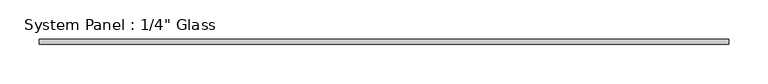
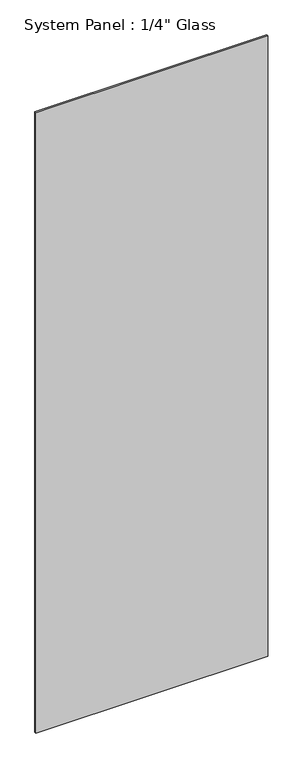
"""IFC4 building model written with IfcOpenShell, lengths in millimetres: plate geometry."""

from ifc_helpers import new_model, si_unit, origin, origin_with_axes, place, context, project, spatial, polyline, outline, extrude, source, transform, mapped, element, save


def plate_748a28b9(model_context):
    return source(origin(), model_context, "Body", "SweptSolid", [
        extrude(outline(polyline([(439.7375, -3.175), (-439.7375, -3.175), (-439.7375, 3.175), (439.7375, 3.175), (439.7375, -3.175)])), origin_with_axes(), (0.0, 0.0, 1.0), 2489.2),
    ])


if __name__ == "__main__":
    model = new_model("IFC4")
    model_context = context("Model", 3, world=origin())
    ifc_project = project(units=[si_unit("LENGTHUNIT", "METRE", prefix="MILLI")], contexts=[model_context])
    site = spatial("IfcSite", under=ifc_project)
    building = spatial("IfcBuilding", under=site)
    placement = place(None, origin())
    plate_shape = plate_748a28b9(model_context)
    element("IfcPlate", 1, ObjectType="System Panel : 1/4\" Glass", at=placement, inside=building, context=model_context, shape_type="MappedRepresentation", body=[
        mapped(plate_shape, transform((0.0, 0.0, 0.0), x_axis=(1.0, 0.0, 0.0), y_axis=(0.0, 1.0, 0.0), z_axis=(0.0, 0.0, 1.0))),
    ])
    save(model, "model.ifc")
